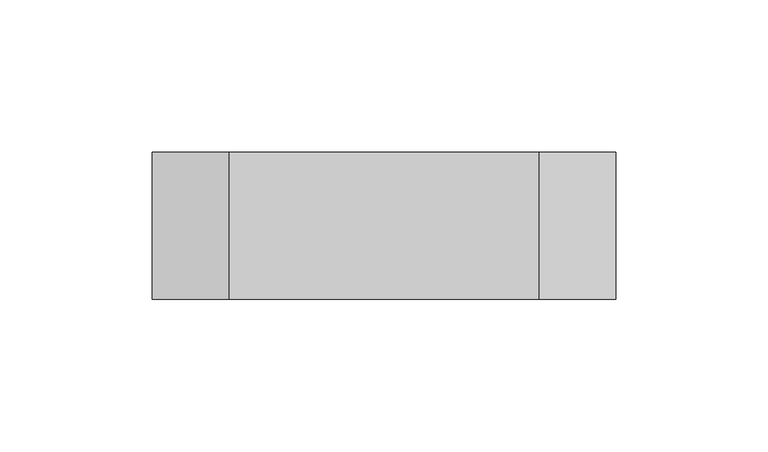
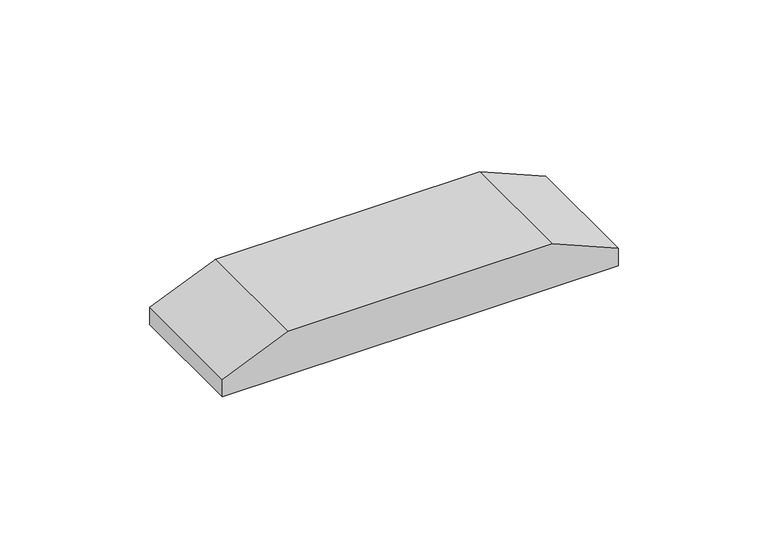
"""IFC4 building model written with IfcOpenShell, lengths in millimetres: proxy geometry, Device_Plate-2400_Series-Wiremold-Bracket_And_Frame : 106 Bracket, Two Network Modules Fog White."""

import ifcopenshell
import ifcopenshell.guid

model = None  # the IFC model being written
_history = None  # IfcOwnerHistory: only IFC2X3 demands one
_inside = {}  # id of a spatial element -> (the spatial element, [elements in it])
_under = {}  # id of a project, library or spatial element -> (it, [spatial elements below it])
_declared = {}  # id of a project -> (the project, [libraries it declares])
_typed = {}  # id of a type object -> (the type object, [elements of that type])
_made_of = {}  # id of a material, layer set ... -> (it, [elements and type objects made of it])


def new_model(schema):
    """Start an empty IFC model of exactly this schema.

    Asked for "IFC4X3", IfcOpenShell would pick the latest addendum, in which some entities
    have other attributes; the version numbers below select the first issue.
    IFC2X3 requires an IfcOwnerHistory on every rooted entity: one is made here for all.
    """
    global model, _history
    if schema == "IFC4X3":
        model = ifcopenshell.file(schema_version=(4, 3, 0, 0))
    else:
        model = ifcopenshell.file(schema=schema)
    _inside.clear()
    _under.clear()
    _declared.clear()
    _typed.clear()
    _made_of.clear()
    _history = None
    if model.schema == "IFC2X3":
        org = make("IfcOrganization", Name="unknown")
        user = make(
            "IfcPersonAndOrganization",
            ThePerson=make("IfcPerson", FamilyName="unknown"),
            TheOrganization=org,
        )
        app = make(
            "IfcApplication",
            ApplicationDeveloper=org,
            Version="unknown",
            ApplicationFullName="unknown",
            ApplicationIdentifier="unknown",
        )
        _history = make(
            "IfcOwnerHistory",
            OwningUser=user,
            OwningApplication=app,
            ChangeAction="ADDED",
            CreationDate=0,
        )
    return model


def make(cls, **values):
    """One entity of the class cls with the attributes given. An attribute that is None is left unset."""
    return model.create_entity(
        cls, **{name: value for name, value in values.items() if value is not None}
    )


def rooted(cls, **values):
    """An entity with a GlobalId (a new one), such as an element, a storey or a relation."""
    return make(cls, GlobalId=ifcopenshell.guid.new(), OwnerHistory=_history, **values)


def si_unit(unit_type, name, prefix=None):
    """IfcSIUnit, for example si_unit("LENGTHUNIT", "METRE", prefix="MILLI")."""
    return make("IfcSIUnit", UnitType=unit_type, Prefix=prefix, Name=name)


def assignment(units):
    """IfcUnitAssignment: the units of a project."""
    return None if units is None else make("IfcUnitAssignment", Units=units)


def point(xyz):
    """IfcCartesianPoint."""
    return None if xyz is None else make("IfcCartesianPoint", Coordinates=xyz)


def direction(xyz):
    """IfcDirection."""
    return None if xyz is None else make("IfcDirection", DirectionRatios=xyz)


def frame(location, z_axis=None, x_axis=None):
    """IfcAxis2Placement3D, a coordinate frame: its origin and axes. An axis left out is left unset."""
    return make(
        "IfcAxis2Placement3D",
        Location=point(location),
        Axis=direction(z_axis),
        RefDirection=direction(x_axis),
    )


def origin():
    """The frame at (0, 0, 0) with its axes left unset."""
    return frame((0.0, 0.0, 0.0))


def place(relative_to, where):
    """IfcLocalPlacement: puts the frame where relative to a parent placement (None: the world)."""
    return make(
        "IfcLocalPlacement", PlacementRelTo=relative_to, RelativePlacement=where
    )


def context(
    kind, dimensions, precision=None, world=None, true_north=None, identifier=None
):
    """IfcGeometricRepresentationContext, for example the 3D "Model" context."""
    return make(
        "IfcGeometricRepresentationContext",
        ContextIdentifier=identifier,
        ContextType=kind,
        CoordinateSpaceDimension=dimensions,
        Precision=precision,
        WorldCoordinateSystem=world,
        TrueNorth=true_north,
    )


def project(units=None, contexts=None):
    """IfcProject with its units and contexts."""
    return rooted(
        "IfcProject",
        Name="project",
        RepresentationContexts=contexts,
        UnitsInContext=assignment(units),
    )


def spatial(cls, under=None, at=None, **own):
    """A site, building, storey or space (cls), placed at a placement, below another one or the project."""
    s = rooted(cls, ObjectPlacement=at, **own)
    if under is not None:
        _under.setdefault(under.id(), (under, []))[1].append(s)
    return s


def polyline(points):
    """IfcPolyline through the points."""
    return make("IfcPolyline", Points=[point(p) for p in points])


def outline(outer, holes=None, kind="AREA"):
    """IfcArbitraryClosedProfileDef: a profile drawn as a closed curve; with holes, ...WithVoids."""
    if holes is None:
        return make("IfcArbitraryClosedProfileDef", ProfileType=kind, OuterCurve=outer)
    return make(
        "IfcArbitraryProfileDefWithVoids",
        ProfileType=kind,
        OuterCurve=outer,
        InnerCurves=holes,
    )


def extrude(swept, where, along, depth):
    """IfcExtrudedAreaSolid: the profile swept, set in the frame where, extruded along a direction by depth."""
    return make(
        "IfcExtrudedAreaSolid",
        SweptArea=swept,
        Position=where,
        ExtrudedDirection=direction(along),
        Depth=depth,
    )


def shape(context_of_items, identifier, shape_type, items):
    """IfcShapeRepresentation: the items that make up one representation, for example the "Body"."""
    return make(
        "IfcShapeRepresentation",
        ContextOfItems=context_of_items,
        RepresentationIdentifier=identifier,
        RepresentationType=shape_type,
        Items=items,
    )


def source(mapping_origin, context_of_items, identifier, shape_type, items):
    """IfcRepresentationMap: a shape defined once, which mapped items show again and again."""
    return make(
        "IfcRepresentationMap",
        MappingOrigin=mapping_origin,
        MappedRepresentation=shape(context_of_items, identifier, shape_type, items),
    )


def transform(
    local_origin,
    x_axis=None,
    y_axis=None,
    z_axis=None,
    scale=None,
    scale2=None,
    scale3=None,
    uniform=True,
):
    """IfcCartesianTransformationOperator3D, or its non-uniform kind. x_axis, y_axis, z_axis: its Axis1, 2, 3."""
    if uniform:
        return make(
            "IfcCartesianTransformationOperator3D",
            Axis1=direction(x_axis),
            Axis2=direction(y_axis),
            LocalOrigin=point(local_origin),
            Scale=scale,
            Axis3=direction(z_axis),
        )
    return make(
        "IfcCartesianTransformationOperator3DnonUniform",
        Axis1=direction(x_axis),
        Axis2=direction(y_axis),
        LocalOrigin=point(local_origin),
        Scale=scale,
        Axis3=direction(z_axis),
        Scale2=scale2,
        Scale3=scale3,
    )


def mapped(mapping_source, mapping_target):
    """IfcMappedItem: shows the shape of a source again, moved by a transform."""
    return make(
        "IfcMappedItem", MappingSource=mapping_source, MappingTarget=mapping_target
    )


def made_of(thing, what):
    """Note that an element or type object is made of a material, layer set ...; save() writes the relation."""
    if what is not None:
        _made_of.setdefault(what.id(), (what, []))[1].append(thing)
    return thing


def element(
    cls,
    number,
    at=None,
    inside=None,
    cuts=None,
    type_object=None,
    material=None,
    context=None,
    identifier="Body",
    shape_type=None,
    held_by="IfcProductDefinitionShape",
    body=None,
    shapes=None,
    **own,
):
    """One element of the class cls, such as IfcWall. Its Tag is "e" and its number.

    at: its placement. inside: the storey or other place that contains it. cuts: it is an
    opening in that element (IfcRelVoidsElement). A single representation is given by context,
    identifier, shape_type and body (its items); several are given by shapes. held_by: the class
    of the entity that holds the representations. save() writes the other relations.
    """
    e = rooted(cls, Tag="e%d" % number, ObjectPlacement=at, **own)
    if body is not None:
        shapes = [shape(context, identifier, shape_type, body)]
    if shapes is not None:
        e.Representation = make(held_by, Representations=shapes)
    if inside is not None:
        _inside.setdefault(inside.id(), (inside, []))[1].append(e)
    if cuts is not None:
        rooted(
            "IfcRelVoidsElement", RelatingBuildingElement=cuts, RelatedOpeningElement=e
        )
    if type_object is not None:
        _typed.setdefault(type_object.id(), (type_object, []))[1].append(e)
    return made_of(e, material)


def aggregate(whole, parts):
    """IfcRelAggregates: a whole, such as a stair, and the parts it consists of."""
    return rooted("IfcRelAggregates", RelatingObject=whole, RelatedObjects=parts)


def save(model, path):
    """Write the relations noted so far, then the file.

    IfcRelAggregates (storeys below a building ...), IfcRelContainedInSpatialStructure (elements
    in a storey), IfcRelDefinesByType, IfcRelAssociatesMaterial and IfcRelDeclares: one each for
    every whole, place, type object, material and project.
    """
    for whole, parts in _under.values():
        aggregate(whole, parts)
    for where, things in _inside.values():
        rooted(
            "IfcRelContainedInSpatialStructure",
            RelatedElements=things,
            RelatingStructure=where,
        )
    for kind, things in _typed.values():
        rooted("IfcRelDefinesByType", RelatedObjects=things, RelatingType=kind)
    for what, things in _made_of.values():
        rooted("IfcRelAssociatesMaterial", RelatedObjects=things, RelatingMaterial=what)
    for by, libraries in _declared.values():
        rooted("IfcRelDeclares", RelatingContext=by, RelatedDefinitions=libraries)
    model.write(path)


def electrical_fixtures_cd09dcbf(model_context):
    return source(origin(), model_context, "Body", "SweptSolid", [
        extrude(outline(polyline([(17.78, 50.8), (17.78, -50.8), (6.985, -76.2), (0.0, -76.2), (0.0, 76.2), (6.985, 76.2), (17.78, 50.8)])), frame((0.0, -24.209375, 0.0), z_axis=(0.0, 1.0, 0.0), x_axis=(0.0, 0.0, 1.0)), (0.0, 0.0, 1.0), 48.41875),
    ])


if __name__ == "__main__":
    model = new_model("IFC4")
    model_context = context("Model", 3, world=origin())
    ifc_project = project(units=[si_unit("LENGTHUNIT", "METRE", prefix="MILLI")], contexts=[model_context])
    site = spatial("IfcSite", under=ifc_project)
    building = spatial("IfcBuilding", under=site)
    placement = place(None, origin())
    electrical_fixtures_shape = electrical_fixtures_cd09dcbf(model_context)
    element("IfcBuildingElementProxy", 1, Name="Device_Plate-2400_Series-Wiremold-Bracket_And_Frame : 106 Bracket, Two Network Modules Fog White", ObjectType="Device_Plate-2400_Series-Wiremold-Bracket_And_Frame : 106 Bracket, Two Network Modules Fog White", at=placement, inside=building, context=model_context, shape_type="MappedRepresentation", body=[
        mapped(electrical_fixtures_shape, transform((0.0, 0.0, 0.0), x_axis=(1.0, 0.0, 0.0), y_axis=(0.0, 1.0, 0.0), z_axis=(0.0, 0.0, 1.0))),
    ])
    save(model, "model.ifc")
